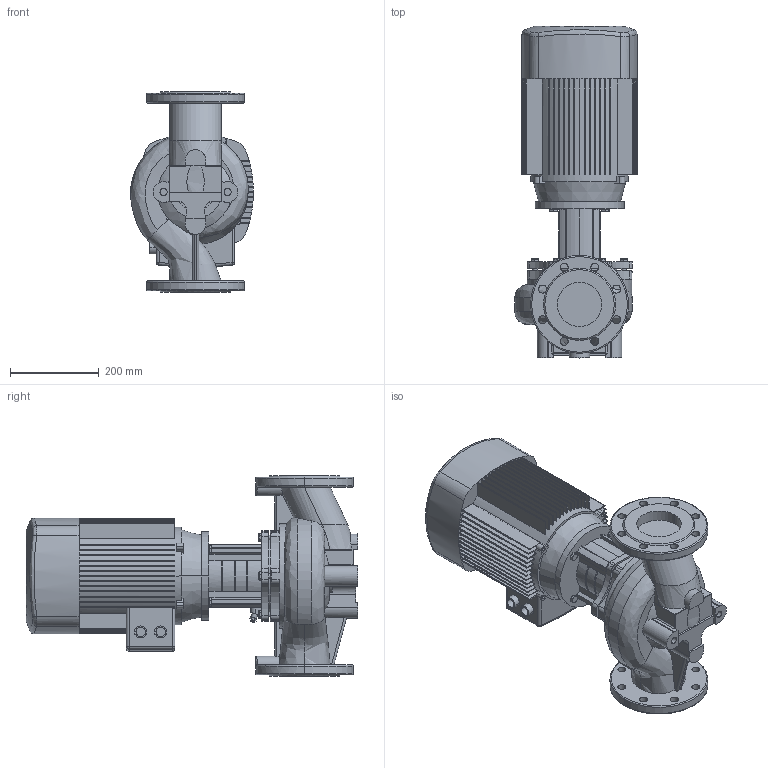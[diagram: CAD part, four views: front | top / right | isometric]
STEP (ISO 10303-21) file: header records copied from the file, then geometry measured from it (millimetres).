
FILE_DESCRIPTION(/* description */ (''),/* implementation_level */ '2;1');
FILE_NAME(/* name */ 'TD100-17 22-2安装尺寸图.stp',/* time_stamp */ '2026-09-07T16:23:14+08:00',/* author */ (''),/* organization */ (''),/* preprocessor_version */ 'ST-DEVELOPER v16.7',/* originating_system */ 'SIEMENS PLM Software NX 1847',/* authorisation */ '');
FILE_SCHEMA (('AP203_CONFIGURATION_CONTROLLED_3D_DESIGN_OF_MECHANICAL_PARTS_AND_ASSEMBLIES_MIM_LF { 1 0 10303 403 2 1 2}'));
Length unit declared in the file: millimetre
Products named in the file (1): Admi55F8EAC4z3j0
Bounding box: 275.94 x 746 x 450 mm (x, y, z)
Volume: 31555649.7 mm3; surface area: 1574275.1 mm2
Topology: 1 solids, 10 shells, 993 faces, 2703 edges, 1752 vertices
Faces by surface type: plane 554, cylinder 266, cone 75, bspline 49, torus 43, sphere 6
Full cylindrical faces by diameter (mm): 8 x1, 9.732 x10, 10 x7, 12.9 x1, 14.63 x10, 160 x1, 170 x1
Entity records: 37573 total; most frequent: CARTESIAN_POINT 12892, ORIENTED_EDGE 5238, DIRECTION 5011, EDGE_CURVE 2619, AXIS2_PLACEMENT_3D 1838, VERTEX_POINT 1718, LINE 1335, VECTOR 1335
